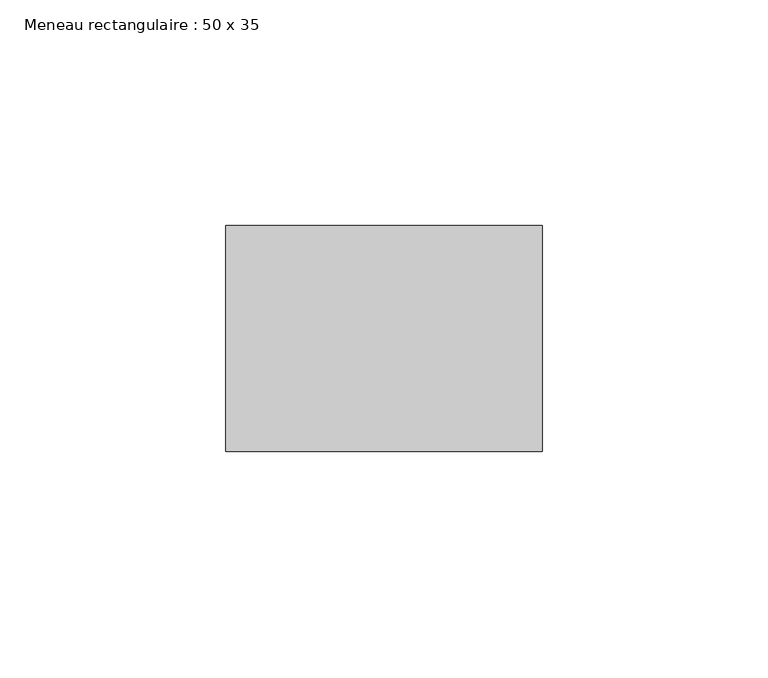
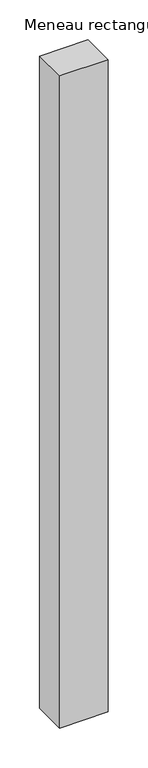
"""IFC4 building model written with IfcOpenShell, lengths in millimetres: member geometry, Meneau rectangulaire : 50 x 35."""

from ifc_helpers import new_model, si_unit, frame, origin, place, context, project, spatial, polyline, outline, extrude, source, transform, mapped, element, save


def meneau_rectangulaire_50_x_35_ed642e9d(model_context):
    return source(origin(), model_context, "Body", "SweptSolid", [
        extrude(outline(polyline([(0.0, 0.0), (0.0, -50.0), (-70.0, -50.0), (-70.0, 0.0), (0.0, 0.0)])), frame((0.0, 0.0, -996.0), z_axis=(0.0, 0.0, 1.0), x_axis=(1.0, 0.0, 0.0)), (0.0, 0.0, 1.0), 996.0),
    ])


if __name__ == "__main__":
    model = new_model("IFC4")
    model_context = context("Model", 3, world=origin())
    ifc_project = project(units=[si_unit("LENGTHUNIT", "METRE", prefix="MILLI")], contexts=[model_context])
    site = spatial("IfcSite", under=ifc_project)
    building = spatial("IfcBuilding", under=site)
    placement = place(None, origin())
    meneau_rectangulaire_50_x_35_shape = meneau_rectangulaire_50_x_35_ed642e9d(model_context)
    element("IfcMember", 1, ObjectType="Meneau rectangulaire : 50 x 35", at=placement, inside=building, context=model_context, shape_type="MappedRepresentation", body=[
        mapped(meneau_rectangulaire_50_x_35_shape, transform((0.0, 0.0, 0.0), x_axis=(1.0, 0.0, 0.0), y_axis=(0.0, 1.0, 0.0), z_axis=(0.0, 0.0, 1.0))),
    ])
    save(model, "model.ifc")
